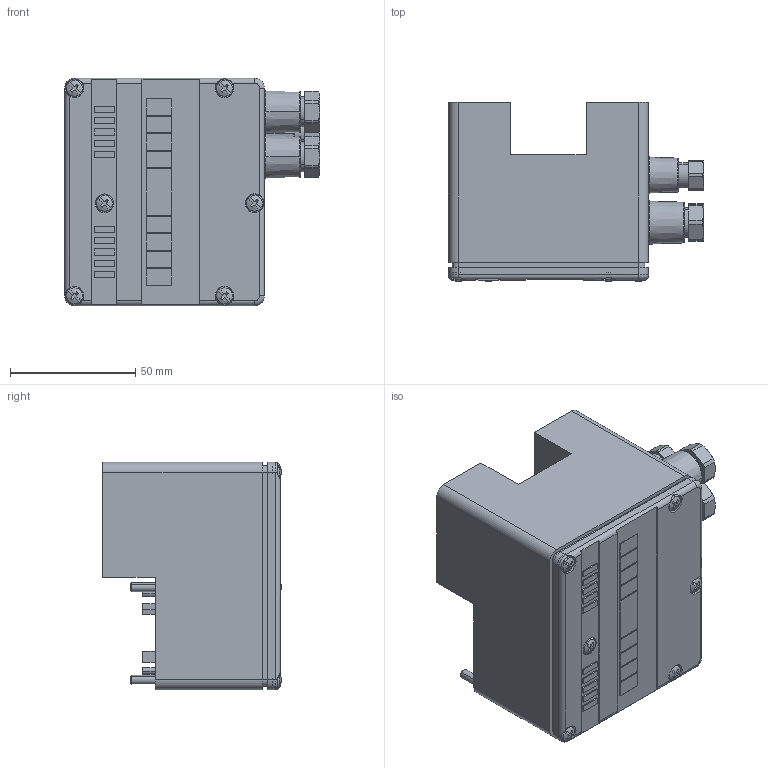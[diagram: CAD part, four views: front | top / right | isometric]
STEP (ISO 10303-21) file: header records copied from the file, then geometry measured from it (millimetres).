
FILE_DESCRIPTION(('starvars output'),'2;1');
FILE_NAME('AC2616_3.stp','15:53:13 2007/04/16',( 'Thomas Industrial Network Germany GmbH'),( 'Thomas Industrial Network Germany GmbH'),'unknown preprocess','ACIS' ,'unknown authorization');
FILE_SCHEMA(('CONFIG_CONTROL_DESIGN {UNKNOWN IMPLEMENTATION LEVEL}'));
Length unit declared in the file: millimetre
Products named in the file (1): PRODUCT_ID_4
Bounding box: 102 x 71.46 x 91 mm (x, y, z)
Volume: 416853.2 mm3; surface area: 45644.1 mm2
Topology: 1 solids, 1 shells, 470 faces, 1125 edges, 713 vertices
Faces by surface type: plane 280, cylinder 106, cone 38, torus 34, sphere 12
Entity records: 12208 total; most frequent: CARTESIAN_POINT 2433, ORIENTED_EDGE 2250, DIRECTION 1715, EDGE_CURVE 1125, VERTEX_POINT 713, VECTOR 609, LINE 609, AXIS2_PLACEMENT_3D 553
